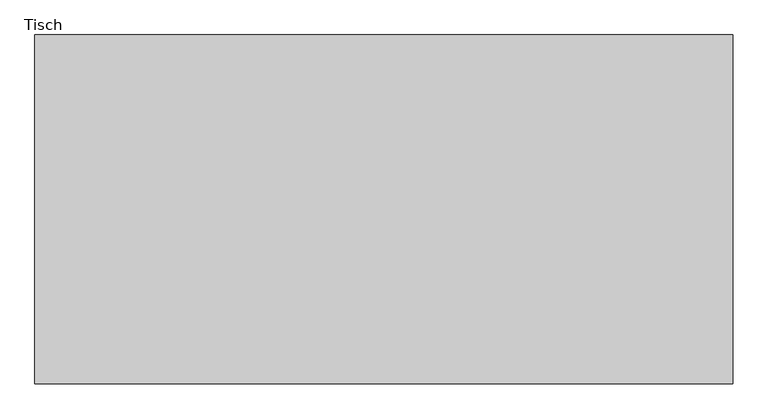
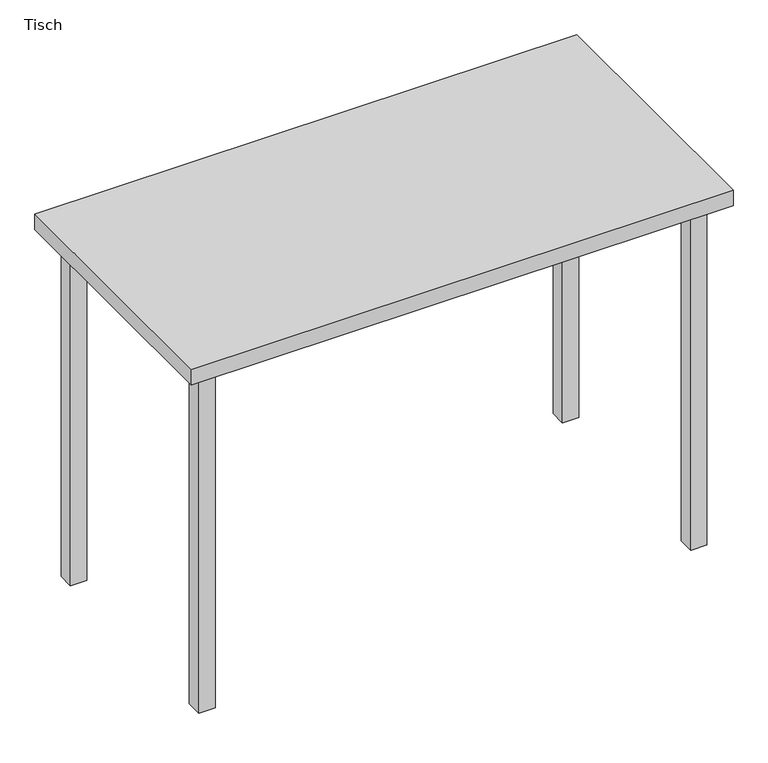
"""IFC4 building model written with IfcOpenShell, lengths in millimetres: furniture geometry, Mobile Ausstattung Tisch : Tisch."""

import ifcopenshell
import ifcopenshell.guid

model = None  # the IFC model being written
_history = None  # IfcOwnerHistory: only IFC2X3 demands one
_inside = {}  # id of a spatial element -> (the spatial element, [elements in it])
_under = {}  # id of a project, library or spatial element -> (it, [spatial elements below it])
_declared = {}  # id of a project -> (the project, [libraries it declares])
_typed = {}  # id of a type object -> (the type object, [elements of that type])
_made_of = {}  # id of a material, layer set ... -> (it, [elements and type objects made of it])


def new_model(schema):
    """Start an empty IFC model of exactly this schema.

    Asked for "IFC4X3", IfcOpenShell would pick the latest addendum, in which some entities
    have other attributes; the version numbers below select the first issue.
    IFC2X3 requires an IfcOwnerHistory on every rooted entity: one is made here for all.
    """
    global model, _history
    if schema == "IFC4X3":
        model = ifcopenshell.file(schema_version=(4, 3, 0, 0))
    else:
        model = ifcopenshell.file(schema=schema)
    _inside.clear()
    _under.clear()
    _declared.clear()
    _typed.clear()
    _made_of.clear()
    _history = None
    if model.schema == "IFC2X3":
        org = make("IfcOrganization", Name="unknown")
        user = make(
            "IfcPersonAndOrganization",
            ThePerson=make("IfcPerson", FamilyName="unknown"),
            TheOrganization=org,
        )
        app = make(
            "IfcApplication",
            ApplicationDeveloper=org,
            Version="unknown",
            ApplicationFullName="unknown",
            ApplicationIdentifier="unknown",
        )
        _history = make(
            "IfcOwnerHistory",
            OwningUser=user,
            OwningApplication=app,
            ChangeAction="ADDED",
            CreationDate=0,
        )
    return model


def make(cls, **values):
    """One entity of the class cls with the attributes given. An attribute that is None is left unset."""
    return model.create_entity(
        cls, **{name: value for name, value in values.items() if value is not None}
    )


def rooted(cls, **values):
    """An entity with a GlobalId (a new one), such as an element, a storey or a relation."""
    return make(cls, GlobalId=ifcopenshell.guid.new(), OwnerHistory=_history, **values)


def si_unit(unit_type, name, prefix=None):
    """IfcSIUnit, for example si_unit("LENGTHUNIT", "METRE", prefix="MILLI")."""
    return make("IfcSIUnit", UnitType=unit_type, Prefix=prefix, Name=name)


def assignment(units):
    """IfcUnitAssignment: the units of a project."""
    return None if units is None else make("IfcUnitAssignment", Units=units)


def point(xyz):
    """IfcCartesianPoint."""
    return None if xyz is None else make("IfcCartesianPoint", Coordinates=xyz)


def direction(xyz):
    """IfcDirection."""
    return None if xyz is None else make("IfcDirection", DirectionRatios=xyz)


def frame(location, z_axis=None, x_axis=None):
    """IfcAxis2Placement3D, a coordinate frame: its origin and axes. An axis left out is left unset."""
    return make(
        "IfcAxis2Placement3D",
        Location=point(location),
        Axis=direction(z_axis),
        RefDirection=direction(x_axis),
    )


def origin():
    """The frame at (0, 0, 0) with its axes left unset."""
    return frame((0.0, 0.0, 0.0))


def origin_with_axes():
    """The frame at (0, 0, 0) with the z axis (0, 0, 1) and the x axis (1, 0, 0) written out."""
    return frame((0.0, 0.0, 0.0), z_axis=(0.0, 0.0, 1.0), x_axis=(1.0, 0.0, 0.0))


def place(relative_to, where):
    """IfcLocalPlacement: puts the frame where relative to a parent placement (None: the world)."""
    return make(
        "IfcLocalPlacement", PlacementRelTo=relative_to, RelativePlacement=where
    )


def context(
    kind, dimensions, precision=None, world=None, true_north=None, identifier=None
):
    """IfcGeometricRepresentationContext, for example the 3D "Model" context."""
    return make(
        "IfcGeometricRepresentationContext",
        ContextIdentifier=identifier,
        ContextType=kind,
        CoordinateSpaceDimension=dimensions,
        Precision=precision,
        WorldCoordinateSystem=world,
        TrueNorth=true_north,
    )


def project(units=None, contexts=None):
    """IfcProject with its units and contexts."""
    return rooted(
        "IfcProject",
        Name="project",
        RepresentationContexts=contexts,
        UnitsInContext=assignment(units),
    )


def spatial(cls, under=None, at=None, **own):
    """A site, building, storey or space (cls), placed at a placement, below another one or the project."""
    s = rooted(cls, ObjectPlacement=at, **own)
    if under is not None:
        _under.setdefault(under.id(), (under, []))[1].append(s)
    return s


def polyline(points):
    """IfcPolyline through the points."""
    return make("IfcPolyline", Points=[point(p) for p in points])


def outline(outer, holes=None, kind="AREA"):
    """IfcArbitraryClosedProfileDef: a profile drawn as a closed curve; with holes, ...WithVoids."""
    if holes is None:
        return make("IfcArbitraryClosedProfileDef", ProfileType=kind, OuterCurve=outer)
    return make(
        "IfcArbitraryProfileDefWithVoids",
        ProfileType=kind,
        OuterCurve=outer,
        InnerCurves=holes,
    )


def extrude(swept, where, along, depth):
    """IfcExtrudedAreaSolid: the profile swept, set in the frame where, extruded along a direction by depth."""
    return make(
        "IfcExtrudedAreaSolid",
        SweptArea=swept,
        Position=where,
        ExtrudedDirection=direction(along),
        Depth=depth,
    )


def shape(context_of_items, identifier, shape_type, items):
    """IfcShapeRepresentation: the items that make up one representation, for example the "Body"."""
    return make(
        "IfcShapeRepresentation",
        ContextOfItems=context_of_items,
        RepresentationIdentifier=identifier,
        RepresentationType=shape_type,
        Items=items,
    )


def source(mapping_origin, context_of_items, identifier, shape_type, items):
    """IfcRepresentationMap: a shape defined once, which mapped items show again and again."""
    return make(
        "IfcRepresentationMap",
        MappingOrigin=mapping_origin,
        MappedRepresentation=shape(context_of_items, identifier, shape_type, items),
    )


def transform(
    local_origin,
    x_axis=None,
    y_axis=None,
    z_axis=None,
    scale=None,
    scale2=None,
    scale3=None,
    uniform=True,
):
    """IfcCartesianTransformationOperator3D, or its non-uniform kind. x_axis, y_axis, z_axis: its Axis1, 2, 3."""
    if uniform:
        return make(
            "IfcCartesianTransformationOperator3D",
            Axis1=direction(x_axis),
            Axis2=direction(y_axis),
            LocalOrigin=point(local_origin),
            Scale=scale,
            Axis3=direction(z_axis),
        )
    return make(
        "IfcCartesianTransformationOperator3DnonUniform",
        Axis1=direction(x_axis),
        Axis2=direction(y_axis),
        LocalOrigin=point(local_origin),
        Scale=scale,
        Axis3=direction(z_axis),
        Scale2=scale2,
        Scale3=scale3,
    )


def mapped(mapping_source, mapping_target):
    """IfcMappedItem: shows the shape of a source again, moved by a transform."""
    return make(
        "IfcMappedItem", MappingSource=mapping_source, MappingTarget=mapping_target
    )


def made_of(thing, what):
    """Note that an element or type object is made of a material, layer set ...; save() writes the relation."""
    if what is not None:
        _made_of.setdefault(what.id(), (what, []))[1].append(thing)
    return thing


def element(
    cls,
    number,
    at=None,
    inside=None,
    cuts=None,
    type_object=None,
    material=None,
    context=None,
    identifier="Body",
    shape_type=None,
    held_by="IfcProductDefinitionShape",
    body=None,
    shapes=None,
    **own,
):
    """One element of the class cls, such as IfcWall. Its Tag is "e" and its number.

    at: its placement. inside: the storey or other place that contains it. cuts: it is an
    opening in that element (IfcRelVoidsElement). A single representation is given by context,
    identifier, shape_type and body (its items); several are given by shapes. held_by: the class
    of the entity that holds the representations. save() writes the other relations.
    """
    e = rooted(cls, Tag="e%d" % number, ObjectPlacement=at, **own)
    if body is not None:
        shapes = [shape(context, identifier, shape_type, body)]
    if shapes is not None:
        e.Representation = make(held_by, Representations=shapes)
    if inside is not None:
        _inside.setdefault(inside.id(), (inside, []))[1].append(e)
    if cuts is not None:
        rooted(
            "IfcRelVoidsElement", RelatingBuildingElement=cuts, RelatedOpeningElement=e
        )
    if type_object is not None:
        _typed.setdefault(type_object.id(), (type_object, []))[1].append(e)
    return made_of(e, material)


def aggregate(whole, parts):
    """IfcRelAggregates: a whole, such as a stair, and the parts it consists of."""
    return rooted("IfcRelAggregates", RelatingObject=whole, RelatedObjects=parts)


def save(model, path):
    """Write the relations noted so far, then the file.

    IfcRelAggregates (storeys below a building ...), IfcRelContainedInSpatialStructure (elements
    in a storey), IfcRelDefinesByType, IfcRelAssociatesMaterial and IfcRelDeclares: one each for
    every whole, place, type object, material and project.
    """
    for whole, parts in _under.values():
        aggregate(whole, parts)
    for where, things in _inside.values():
        rooted(
            "IfcRelContainedInSpatialStructure",
            RelatedElements=things,
            RelatingStructure=where,
        )
    for kind, things in _typed.values():
        rooted("IfcRelDefinesByType", RelatedObjects=things, RelatingType=kind)
    for what, things in _made_of.values():
        rooted("IfcRelAssociatesMaterial", RelatedObjects=things, RelatingMaterial=what)
    for by, libraries in _declared.values():
        rooted("IfcRelDeclares", RelatingContext=by, RelatedDefinitions=libraries)
    model.write(path)


def tisch_db3c5c43(model_context):
    return source(origin(), model_context, "Body", "SweptSolid", [
        extrude(outline(polyline([(469.0578721, -270.0), (439.0578721, -270.0), (439.0578721, -240.0), (469.0578721, -240.0), (469.0578721, -270.0)])), origin_with_axes(), (0.0, 0.0, 1.0), 670.0),
        extrude(outline(polyline([(-469.0578721, -270.5919065), (-469.0578721, -240.0), (-438.7917796, -240.0), (-438.7917796, -270.5919065), (-469.0578721, -270.5919065)])), origin_with_axes(), (0.0, 0.0, 1.0), 670.0),
        extrude(outline(polyline([(-469.0578721, 170.0), (-439.0578721, 170.0), (-439.0578721, 140.0), (-469.0578721, 140.0), (-469.0578721, 170.0)])), origin_with_axes(), (0.0, 0.0, 1.0), 670.0),
        extrude(outline(polyline([(469.0578721, 170.0), (469.0578721, 140.0), (439.0578721, 140.0), (439.0578721, 170.0), (469.0578721, 170.0)])), origin_with_axes(), (0.0, 0.0, 1.0), 670.0),
        extrude(outline(polyline([(500.0, -300.0), (-500.0, -300.0), (-500.0, 200.0), (500.0, 200.0), (500.0, -300.0)])), frame((0.0, 0.0, 670.0), z_axis=(0.0, 0.0, 1.0), x_axis=(1.0, 0.0, 0.0)), (0.0, 0.0, 1.0), 30.0),
    ])


if __name__ == "__main__":
    model = new_model("IFC4")
    model_context = context("Model", 3, world=origin())
    ifc_project = project(units=[si_unit("LENGTHUNIT", "METRE", prefix="MILLI")], contexts=[model_context])
    site = spatial("IfcSite", under=ifc_project)
    building = spatial("IfcBuilding", under=site)
    placement = place(None, origin())
    tisch_shape = tisch_db3c5c43(model_context)
    element("IfcFurniture", 1, ObjectType="Mobile Ausstattung Tisch : Tisch", at=placement, inside=building, context=model_context, shape_type="MappedRepresentation", body=[
        mapped(tisch_shape, transform((0.0, 0.0, 0.0), x_axis=(1.0, 0.0, 0.0), y_axis=(0.0, 1.0, 0.0), z_axis=(0.0, 0.0, 1.0))),
    ])
    save(model, "model.ifc")
